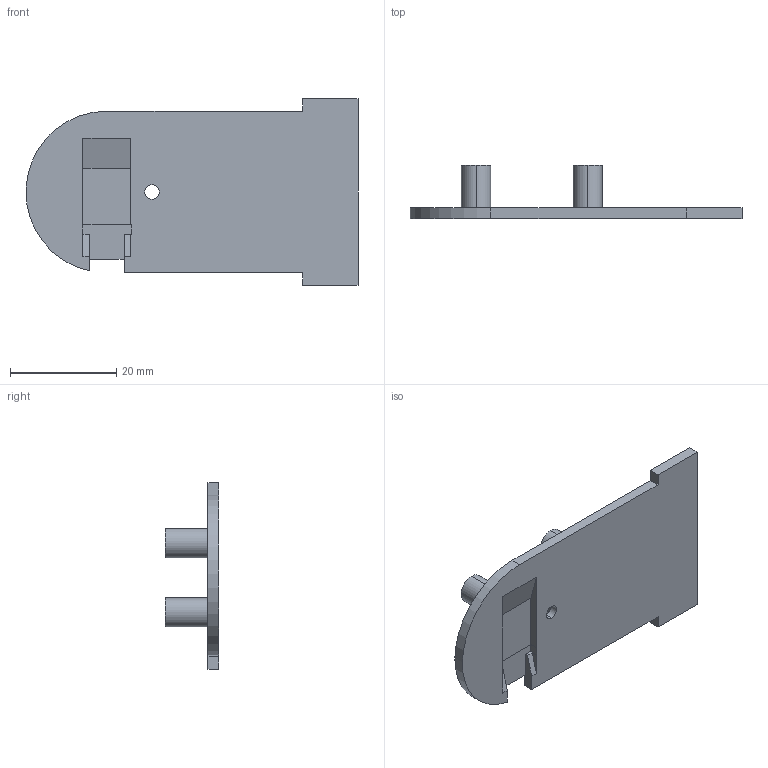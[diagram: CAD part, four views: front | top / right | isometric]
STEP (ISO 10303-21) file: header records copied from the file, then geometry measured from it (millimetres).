
FILE_DESCRIPTION(('Open CASCADE Model'),'2;1');
FILE_NAME('tactile-back-ov5647-through-slot.step','2026-11-14T14:29:28', ('Author'),('Open CASCADE'),'Open CASCADE STEP processor 8.0', 'Open CASCADE 8.0','Unknown');
FILE_SCHEMA(('AP242_MANAGED_MODEL_BASED_3D_ENGINEERING_MIM_LF {1 0 10303 442 1 1 4 }' ));
Length unit declared in the file: millimetre
Products named in the file (1): Tactile Back OV5647 Through Slot
Bounding box: 62.41 x 10 x 35.06 mm (x, y, z)
Volume: 4007.3 mm3; surface area: 4827.7 mm2
Topology: 1 solids, 1 shells, 55 faces, 133 edges, 88 vertices
Faces by surface type: plane 34, cylinder 19, cone 2
Entity records: 3432 total; most frequent: CARTESIAN_POINT 699, DIRECTION 525, LINE 321, VECTOR 321, ORIENTED_EDGE 266, PCURVE 266, DEFINITIONAL_REPRESENTATION 266, EDGE_CURVE 133
